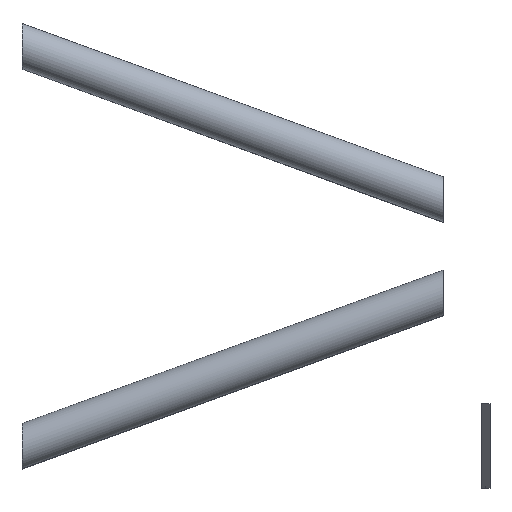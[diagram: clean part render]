
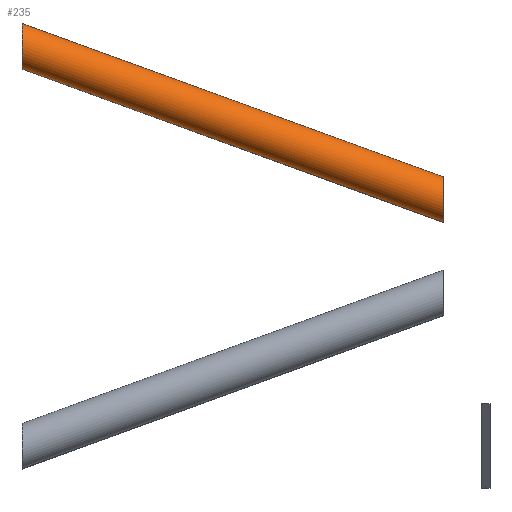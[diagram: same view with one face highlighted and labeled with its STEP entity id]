
A CAD part, top view. The second image highlights one B-rep face of the part: STEP entity #235.
In plain terms, the highlighted cylindrical face has radius 12.5 mm (diameter 25 mm), a full revolution.
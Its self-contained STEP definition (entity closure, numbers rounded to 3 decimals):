
#13=FACE_BOUND('',#63,.T.);
#17=CYLINDRICAL_SURFACE('',#274,12.5);
#21=ELLIPSE('',#271,13.302,12.5);
#22=ELLIPSE('',#273,13.302,12.5);
#43=FACE_OUTER_BOUND('',#62,.T.);
#62=EDGE_LOOP('',(#173));
#63=EDGE_LOOP('',(#174));
#113=VERTEX_POINT('',#392);
#114=VERTEX_POINT('',#395);
#135=EDGE_CURVE('',#113,#113,#21,.T.);
#136=EDGE_CURVE('',#114,#114,#22,.T.);
#173=ORIENTED_EDGE('',*,*,#135,.T.);
#174=ORIENTED_EDGE('',*,*,#136,.T.);
#235=ADVANCED_FACE('',(#43,#13),#17,.T.);
#271=AXIS2_PLACEMENT_3D('',#393,#322,#323);
#273=AXIS2_PLACEMENT_3D('',#396,#326,#327);
#274=AXIS2_PLACEMENT_3D('',#397,#328,#329);
#322=DIRECTION('center_axis',(1.,0.,0.));
#323=DIRECTION('ref_axis',(0.,-1.,0.));
#326=DIRECTION('center_axis',(-1.,0.,0.));
#327=DIRECTION('ref_axis',(0.,-1.,0.));
#328=DIRECTION('center_axis',(0.94,-0.342,0.));
#329=DIRECTION('ref_axis',(-0.342,-0.94,0.));
#392=CARTESIAN_POINT('',(-274.85,396.155,207.));
#393=CARTESIAN_POINT('Origin',(-274.85,382.853,207.));
#395=CARTESIAN_POINT('',(-25.85,278.922,207.));
#396=CARTESIAN_POINT('Origin',(-25.85,292.225,207.));
#397=CARTESIAN_POINT('Origin',(-150.35,337.539,207.));
